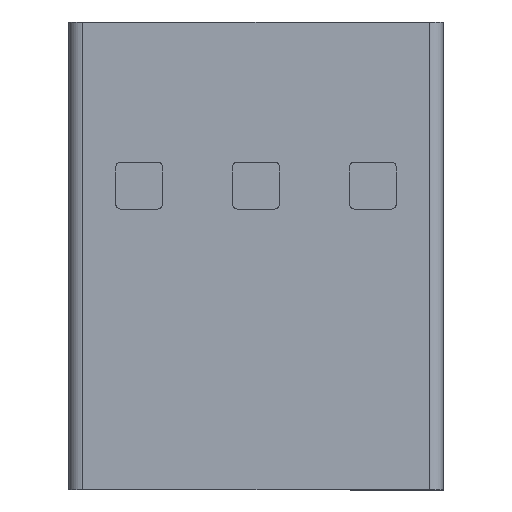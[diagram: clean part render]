
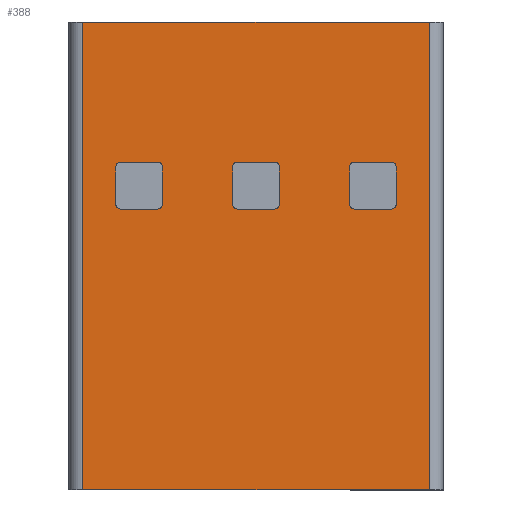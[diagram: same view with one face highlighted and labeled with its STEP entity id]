
A CAD part, top view. The second image highlights one B-rep face of the part: STEP entity #388.
In plain terms, the highlighted planar face has unit normal (0, 0, 1).
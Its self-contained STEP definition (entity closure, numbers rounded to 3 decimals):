
#388=ADVANCED_FACE('',(#958,#959,#960,#961),#962,.T.);
#958=FACE_OUTER_BOUND('',#1740,.T.);
#959=FACE_BOUND('',#1741,.T.);
#960=FACE_BOUND('',#1742,.T.);
#961=FACE_BOUND('',#1743,.T.);
#962=PLANE('',#1744);
#1740=EDGE_LOOP('',(#2701,#2702,#2703,#2704));
#1741=EDGE_LOOP('',(#2705,#2706,#2707,#2708,#2709,#2710,#2711,#2712));
#1742=EDGE_LOOP('',(#2713,#2714,#2715,#2716,#2717,#2718,#2719,#2720));
#1743=EDGE_LOOP('',(#2721,#2722,#2723,#2724,#2725,#2726,#2727,#2728));
#1744=AXIS2_PLACEMENT_3D('',#2729,#2730,#2731);
#2701=ORIENTED_EDGE('',*,*,#4681,.F.);
#2702=ORIENTED_EDGE('',*,*,#4682,.F.);
#2703=ORIENTED_EDGE('',*,*,#4683,.F.);
#2704=ORIENTED_EDGE('',*,*,#4684,.F.);
#2705=ORIENTED_EDGE('',*,*,#4685,.T.);
#2706=ORIENTED_EDGE('',*,*,#4660,.T.);
#2707=ORIENTED_EDGE('',*,*,#4686,.T.);
#2708=ORIENTED_EDGE('',*,*,#4687,.T.);
#2709=ORIENTED_EDGE('',*,*,#4678,.T.);
#2710=ORIENTED_EDGE('',*,*,#4675,.T.);
#2711=ORIENTED_EDGE('',*,*,#4672,.T.);
#2712=ORIENTED_EDGE('',*,*,#4688,.T.);
#2713=ORIENTED_EDGE('',*,*,#4689,.T.);
#2714=ORIENTED_EDGE('',*,*,#4690,.T.);
#2715=ORIENTED_EDGE('',*,*,#4691,.T.);
#2716=ORIENTED_EDGE('',*,*,#4692,.T.);
#2717=ORIENTED_EDGE('',*,*,#4693,.T.);
#2718=ORIENTED_EDGE('',*,*,#4694,.T.);
#2719=ORIENTED_EDGE('',*,*,#4695,.T.);
#2720=ORIENTED_EDGE('',*,*,#4696,.T.);
#2721=ORIENTED_EDGE('',*,*,#4697,.T.);
#2722=ORIENTED_EDGE('',*,*,#4698,.T.);
#2723=ORIENTED_EDGE('',*,*,#4699,.T.);
#2724=ORIENTED_EDGE('',*,*,#4700,.T.);
#2725=ORIENTED_EDGE('',*,*,#4701,.T.);
#2726=ORIENTED_EDGE('',*,*,#4702,.T.);
#2727=ORIENTED_EDGE('',*,*,#4703,.T.);
#2728=ORIENTED_EDGE('',*,*,#4704,.T.);
#2729=CARTESIAN_POINT('',(4.422,6.761,5.0));
#2730=DIRECTION('',(0.,0.,1.0));
#2731=DIRECTION('',(0.,1.0,0.));
#4660=EDGE_CURVE('',#5575,#5573,#5576,.T.);
#4672=EDGE_CURVE('',#5595,#5593,#5596,.T.);
#4675=EDGE_CURVE('',#5599,#5595,#5600,.T.);
#4678=EDGE_CURVE('',#5603,#5599,#5604,.T.);
#4681=EDGE_CURVE('',#5607,#5608,#5609,.T.);
#4682=EDGE_CURVE('',#5610,#5607,#5611,.T.);
#4683=EDGE_CURVE('',#5612,#5610,#5613,.T.);
#4684=EDGE_CURVE('',#5608,#5612,#5614,.T.);
#4685=EDGE_CURVE('',#5615,#5575,#5616,.T.);
#4686=EDGE_CURVE('',#5573,#5617,#5618,.T.);
#4687=EDGE_CURVE('',#5617,#5603,#5619,.T.);
#4688=EDGE_CURVE('',#5593,#5615,#5620,.T.);
#4689=EDGE_CURVE('',#5621,#5622,#5623,.T.);
#4690=EDGE_CURVE('',#5622,#5624,#5625,.T.);
#4691=EDGE_CURVE('',#5624,#5626,#5627,.T.);
#4692=EDGE_CURVE('',#5626,#5628,#5629,.T.);
#4693=EDGE_CURVE('',#5628,#5630,#5631,.T.);
#4694=EDGE_CURVE('',#5630,#5632,#5633,.T.);
#4695=EDGE_CURVE('',#5632,#5634,#5635,.T.);
#4696=EDGE_CURVE('',#5634,#5621,#5636,.T.);
#4697=EDGE_CURVE('',#5637,#5638,#5639,.T.);
#4698=EDGE_CURVE('',#5638,#5640,#5641,.T.);
#4699=EDGE_CURVE('',#5640,#5642,#5643,.T.);
#4700=EDGE_CURVE('',#5642,#5644,#5645,.T.);
#4701=EDGE_CURVE('',#5644,#5646,#5647,.T.);
#4702=EDGE_CURVE('',#5646,#5648,#5649,.T.);
#4703=EDGE_CURVE('',#5648,#5650,#5651,.T.);
#4704=EDGE_CURVE('',#5650,#5637,#5652,.T.);
#5573=VERTEX_POINT('',#6842);
#5575=VERTEX_POINT('',#6845);
#5576=CIRCLE('',#6846,0.1);
#5593=VERTEX_POINT('',#6868);
#5595=VERTEX_POINT('',#6871);
#5596=LINE('',#6872,#6873);
#5599=VERTEX_POINT('',#6877);
#5600=CIRCLE('',#6878,0.1);
#5603=VERTEX_POINT('',#6882);
#5604=LINE('',#6883,#6884);
#5607=VERTEX_POINT('',#6888);
#5608=VERTEX_POINT('',#6889);
#5609=LINE('',#6890,#6891);
#5610=VERTEX_POINT('',#6892);
#5611=LINE('',#6893,#6894);
#5612=VERTEX_POINT('',#6895);
#5613=LINE('',#6896,#6897);
#5614=LINE('',#6898,#6899);
#5615=VERTEX_POINT('',#6900);
#5616=LINE('',#6901,#6902);
#5617=VERTEX_POINT('',#6903);
#5618=LINE('',#6904,#6905);
#5619=CIRCLE('',#6906,0.1);
#5620=CIRCLE('',#6907,0.1);
#5621=VERTEX_POINT('',#6908);
#5622=VERTEX_POINT('',#6909);
#5623=LINE('',#6910,#6911);
#5624=VERTEX_POINT('',#6912);
#5625=CIRCLE('',#6913,0.1);
#5626=VERTEX_POINT('',#6914);
#5627=LINE('',#6915,#6916);
#5628=VERTEX_POINT('',#6917);
#5629=CIRCLE('',#6918,0.1);
#5630=VERTEX_POINT('',#6919);
#5631=LINE('',#6920,#6921);
#5632=VERTEX_POINT('',#6922);
#5633=CIRCLE('',#6923,0.1);
#5634=VERTEX_POINT('',#6924);
#5635=LINE('',#6925,#6926);
#5636=CIRCLE('',#6927,0.1);
#5637=VERTEX_POINT('',#6928);
#5638=VERTEX_POINT('',#6929);
#5639=LINE('',#6930,#6931);
#5640=VERTEX_POINT('',#6932);
#5641=CIRCLE('',#6933,0.1);
#5642=VERTEX_POINT('',#6934);
#5643=LINE('',#6935,#6936);
#5644=VERTEX_POINT('',#6937);
#5645=CIRCLE('',#6938,0.1);
#5646=VERTEX_POINT('',#6939);
#5647=LINE('',#6940,#6941);
#5648=VERTEX_POINT('',#6942);
#5649=CIRCLE('',#6943,0.1);
#5650=VERTEX_POINT('',#6944);
#5651=LINE('',#6945,#6946);
#5652=CIRCLE('',#6947,0.1);
#6842=CARTESIAN_POINT('',(7.,6.9,5.0));
#6845=CARTESIAN_POINT('',(6.9,7.0,5.0));
#6846=AXIS2_PLACEMENT_3D('',#8425,#8426,#8427);
#6868=CARTESIAN_POINT('',(6.,6.9,5.0));
#6871=CARTESIAN_POINT('',(6.,6.1,5.0));
#6872=CARTESIAN_POINT('',(6.,6.1,5.0));
#6873=VECTOR('',#8443,1.0);
#6877=CARTESIAN_POINT('',(6.1,6.0,5.0));
#6878=AXIS2_PLACEMENT_3D('',#8445,#8446,#8447);
#6882=CARTESIAN_POINT('',(6.9,6.0,5.0));
#6883=CARTESIAN_POINT('',(6.9,6.0,5.0));
#6884=VECTOR('',#8449,1.0);
#6888=CARTESIAN_POINT('',(0.3,10.0,5.0));
#6889=CARTESIAN_POINT('',(7.7,10.0,5.0));
#6890=CARTESIAN_POINT('',(0.3,10.0,5.0));
#6891=VECTOR('',#8451,1.0);
#6892=CARTESIAN_POINT('',(0.3,0.0,5.0));
#6893=CARTESIAN_POINT('',(0.3,0.0,5.0));
#6894=VECTOR('',#8452,1.0);
#6895=CARTESIAN_POINT('',(7.7,0.,5.0));
#6896=CARTESIAN_POINT('',(7.7,0.,5.0));
#6897=VECTOR('',#8453,1.0);
#6898=CARTESIAN_POINT('',(7.7,10.0,5.0));
#6899=VECTOR('',#8454,1.0);
#6900=CARTESIAN_POINT('',(6.1,7.0,5.0));
#6901=CARTESIAN_POINT('',(6.1,7.0,5.0));
#6902=VECTOR('',#8455,1.0);
#6903=CARTESIAN_POINT('',(7.,6.1,5.0));
#6904=CARTESIAN_POINT('',(7.,6.9,5.0));
#6905=VECTOR('',#8456,1.0);
#6906=AXIS2_PLACEMENT_3D('',#8457,#8458,#8459);
#6907=AXIS2_PLACEMENT_3D('',#8460,#8461,#8462);
#6908=CARTESIAN_POINT('',(3.6,7.0,5.0));
#6909=CARTESIAN_POINT('',(4.4,7.0,5.0));
#6910=CARTESIAN_POINT('',(3.6,7.0,5.0));
#6911=VECTOR('',#8463,1.0);
#6912=CARTESIAN_POINT('',(4.5,6.9,5.0));
#6913=AXIS2_PLACEMENT_3D('',#8464,#8465,#8466);
#6914=CARTESIAN_POINT('',(4.5,6.1,5.0));
#6915=CARTESIAN_POINT('',(4.5,6.9,5.0));
#6916=VECTOR('',#8467,1.0);
#6917=CARTESIAN_POINT('',(4.4,6.0,5.0));
#6918=AXIS2_PLACEMENT_3D('',#8468,#8469,#8470);
#6919=CARTESIAN_POINT('',(3.6,6.0,5.0));
#6920=CARTESIAN_POINT('',(4.4,6.0,5.0));
#6921=VECTOR('',#8471,1.0);
#6922=CARTESIAN_POINT('',(3.5,6.1,5.0));
#6923=AXIS2_PLACEMENT_3D('',#8472,#8473,#8474);
#6924=CARTESIAN_POINT('',(3.5,6.9,5.0));
#6925=CARTESIAN_POINT('',(3.5,6.1,5.0));
#6926=VECTOR('',#8475,1.0);
#6927=AXIS2_PLACEMENT_3D('',#8476,#8477,#8478);
#6928=CARTESIAN_POINT('',(1.1,7.0,5.0));
#6929=CARTESIAN_POINT('',(1.9,7.0,5.0));
#6930=CARTESIAN_POINT('',(1.1,7.0,5.0));
#6931=VECTOR('',#8479,1.0);
#6932=CARTESIAN_POINT('',(2.,6.9,5.0));
#6933=AXIS2_PLACEMENT_3D('',#8480,#8481,#8482);
#6934=CARTESIAN_POINT('',(2.,6.1,5.0));
#6935=CARTESIAN_POINT('',(2.,6.9,5.0));
#6936=VECTOR('',#8483,1.0);
#6937=CARTESIAN_POINT('',(1.9,6.0,5.0));
#6938=AXIS2_PLACEMENT_3D('',#8484,#8485,#8486);
#6939=CARTESIAN_POINT('',(1.1,6.0,5.0));
#6940=CARTESIAN_POINT('',(1.9,6.0,5.0));
#6941=VECTOR('',#8487,1.0);
#6942=CARTESIAN_POINT('',(1.,6.1,5.0));
#6943=AXIS2_PLACEMENT_3D('',#8488,#8489,#8490);
#6944=CARTESIAN_POINT('',(1.,6.9,5.0));
#6945=CARTESIAN_POINT('',(1.,6.1,5.0));
#6946=VECTOR('',#8491,1.0);
#6947=AXIS2_PLACEMENT_3D('',#8492,#8493,#8494);
#8425=CARTESIAN_POINT('',(6.9,6.9,5.0));
#8426=DIRECTION('',(0.,0.,-1.0));
#8427=DIRECTION('',(0.,1.0,0.));
#8443=DIRECTION('',(0.,1.0,0.));
#8445=CARTESIAN_POINT('',(6.1,6.1,5.0));
#8446=DIRECTION('',(0.,0.,-1.0));
#8447=DIRECTION('',(0.,-1.0,0.));
#8449=DIRECTION('',(-1.0,0.,0.));
#8451=DIRECTION('',(1.0,0.,0.));
#8452=DIRECTION('',(0.,1.0,0.));
#8453=DIRECTION('',(-1.0,0.,0.));
#8454=DIRECTION('',(0.,-1.0,0.));
#8455=DIRECTION('',(1.0,0.,0.));
#8456=DIRECTION('',(0.,-1.0,0.));
#8457=CARTESIAN_POINT('',(6.9,6.1,5.0));
#8458=DIRECTION('',(0.,0.,-1.0));
#8459=DIRECTION('',(1.0,0.,0.));
#8460=CARTESIAN_POINT('',(6.1,6.9,5.0));
#8461=DIRECTION('',(0.,0.,-1.0));
#8462=DIRECTION('',(-1.0,0.,0.));
#8463=DIRECTION('',(1.0,0.,0.));
#8464=CARTESIAN_POINT('',(4.4,6.9,5.0));
#8465=DIRECTION('',(0.,0.,-1.0));
#8466=DIRECTION('',(0.,1.0,0.));
#8467=DIRECTION('',(0.,-1.0,0.));
#8468=CARTESIAN_POINT('',(4.4,6.1,5.0));
#8469=DIRECTION('',(0.,0.,-1.0));
#8470=DIRECTION('',(1.0,0.,0.));
#8471=DIRECTION('',(-1.0,0.,0.));
#8472=CARTESIAN_POINT('',(3.6,6.1,5.0));
#8473=DIRECTION('',(0.,0.0,-1.0));
#8474=DIRECTION('',(0.,-1.0,0.));
#8475=DIRECTION('',(0.,1.0,0.));
#8476=CARTESIAN_POINT('',(3.6,6.9,5.0));
#8477=DIRECTION('',(0.,0.,-1.0));
#8478=DIRECTION('',(-1.0,0.,0.));
#8479=DIRECTION('',(1.0,0.,0.));
#8480=CARTESIAN_POINT('',(1.9,6.9,5.0));
#8481=DIRECTION('',(0.,0.,-1.0));
#8482=DIRECTION('',(0.,1.0,0.));
#8483=DIRECTION('',(0.,-1.0,0.));
#8484=CARTESIAN_POINT('',(1.9,6.1,5.0));
#8485=DIRECTION('',(0.,0.,-1.0));
#8486=DIRECTION('',(1.0,0.,0.));
#8487=DIRECTION('',(-1.0,0.,0.));
#8488=CARTESIAN_POINT('',(1.1,6.1,5.0));
#8489=DIRECTION('',(0.,0.0,-1.0));
#8490=DIRECTION('',(0.,-1.0,0.));
#8491=DIRECTION('',(0.,1.0,0.));
#8492=CARTESIAN_POINT('',(1.1,6.9,5.0));
#8493=DIRECTION('',(0.,0.,-1.0));
#8494=DIRECTION('',(-1.0,0.,0.));
